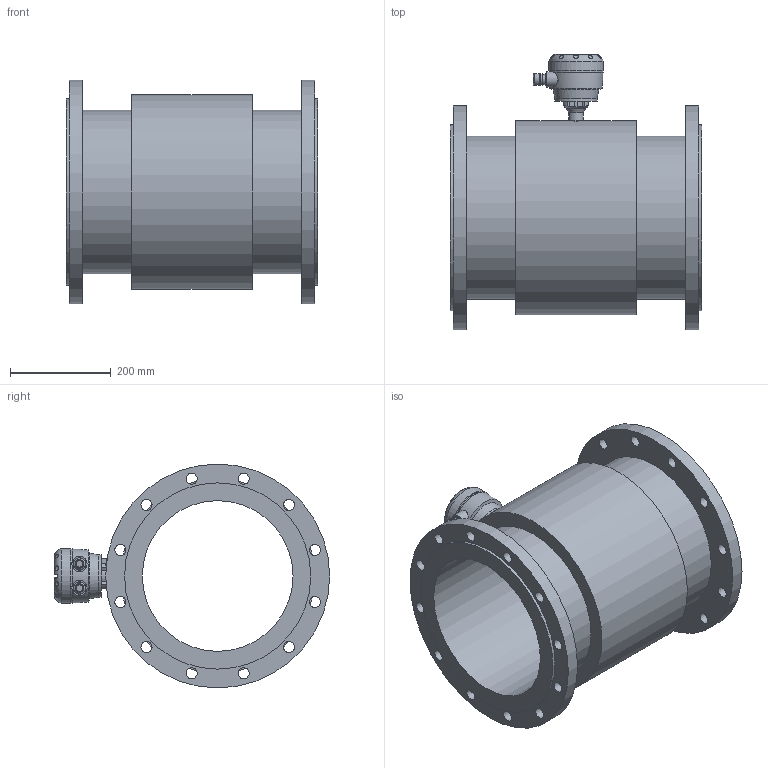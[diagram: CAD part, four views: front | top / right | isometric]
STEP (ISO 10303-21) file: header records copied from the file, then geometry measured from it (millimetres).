
FILE_DESCRIPTION (( 'STEP AP203' ), '1' );
FILE_NAME ('KROHNE_OPTIFLUX_2-4000W-WATERFLUX_3000F_DIN2632_DN300_PN10.STEP', '2011-04-26T11:22:58', ( '' ), ( '' ), 'SwSTEP 2.0', 'SolidWorks 2010', '' );
FILE_SCHEMA (( 'CONFIG_CONTROL_DESIGN' ));
Length unit declared in the file: millimetre
Products named in the file (1): KROHNE_OPTIFLUX_2-4000W-WATERFLUX_3000F_DIN2632_DN300_PN10
Bounding box: 500 x 546.99 x 445 mm (x, y, z)
Volume: 19012420.9 mm3; surface area: 1560437.4 mm2
Topology: 14 solids, 14 shells, 351 faces, 869 edges, 568 vertices
Faces by surface type: plane 158, cylinder 101, bspline 53, torus 18, sphere 13, cone 8
Full cylindrical faces by diameter (mm): 4 x4, 6.6 x8, 13 x2, 20 x2, 22 x24, 23.5 x4, 29 x1, 30 x2, 84 x2, 109 x1, 299.5 x1, 324.5 x2, 370 x2, 386 x1, 445 x2
Entity records: 14264 total; most frequent: CARTESIAN_POINT 6539, ORIENTED_EDGE 1494, DIRECTION 1461, EDGE_CURVE 747, AXIS2_PLACEMENT_3D 549, EDGE_LOOP 534, VERTEX_POINT 531, FACE_OUTER_BOUND 426
